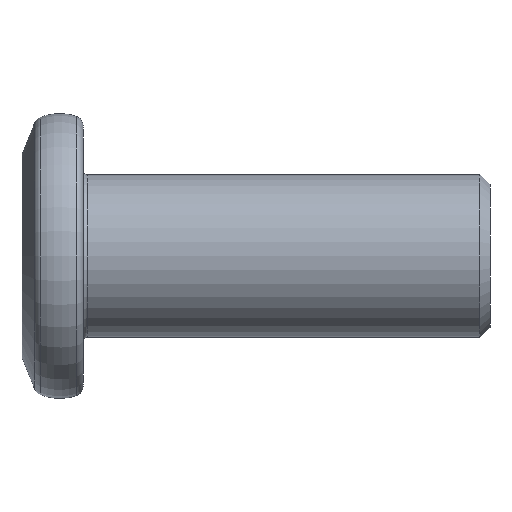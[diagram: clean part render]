
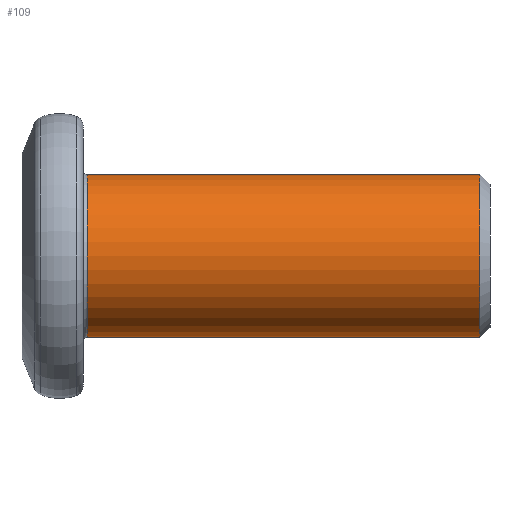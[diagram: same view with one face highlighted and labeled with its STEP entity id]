
A CAD part, front view. The second image highlights one B-rep face of the part: STEP entity #109.
In plain terms, the highlighted cylindrical face has radius 4 mm (diameter 8 mm), a partial arc.
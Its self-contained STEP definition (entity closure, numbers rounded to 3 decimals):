
#8 = CARTESIAN_POINT ( 'NONE',  ( 0., 0., 4. ) ) ;
#27 = CARTESIAN_POINT ( 'NONE',  ( 22.5, 0., 4. ) ) ;
#80 = CARTESIAN_POINT ( 'NONE',  ( 0., 0., -4. ) ) ;
#92 = CARTESIAN_POINT ( 'NONE',  ( 22.5, 0., 0. ) ) ;
#102 = AXIS2_PLACEMENT_3D ( 'NONE', #687, #376, #486 ) ;
#109 = ADVANCED_FACE ( 'NONE', ( #300 ), #440, .T. ) ;
#117 = ORIENTED_EDGE ( 'NONE', *, *, #416, .T. ) ;
#153 = CARTESIAN_POINT ( 'NONE',  ( 3.2, 0., -4. ) ) ;
#170 = AXIS2_PLACEMENT_3D ( 'NONE', #92, #476, #410 ) ;
#211 = AXIS2_PLACEMENT_3D ( 'NONE', #708, #327, #228 ) ;
#217 = LINE ( 'NONE', #80, #321 ) ;
#228 = DIRECTION ( 'NONE',  ( 0., 0., -1. ) ) ;
#288 = VERTEX_POINT ( 'NONE', #636 ) ;
#300 = FACE_OUTER_BOUND ( 'NONE', #417, .T. ) ;
#321 = VECTOR ( 'NONE', #590, 1000. ) ;
#327 = DIRECTION ( 'NONE',  ( 1., 0., 0. ) ) ;
#376 = DIRECTION ( 'NONE',  ( 1., 0., 0. ) ) ;
#395 = VECTOR ( 'NONE', #758, 1000. ) ;
#406 = VERTEX_POINT ( 'NONE', #27 ) ;
#410 = DIRECTION ( 'NONE',  ( 0., 0., -1. ) ) ;
#416 = EDGE_CURVE ( 'NONE', #538, #406, #587, .T. ) ;
#417 = EDGE_LOOP ( 'NONE', ( #688, #491, #703, #117 ) ) ;
#440 = CYLINDRICAL_SURFACE ( 'NONE', #102, 4. ) ;
#456 = VERTEX_POINT ( 'NONE', #153 ) ;
#476 = DIRECTION ( 'NONE',  ( -1., 0., 0. ) ) ;
#486 = DIRECTION ( 'NONE',  ( 0., 0., -1. ) ) ;
#491 = ORIENTED_EDGE ( 'NONE', *, *, #791, .T. ) ;
#495 = CARTESIAN_POINT ( 'NONE',  ( 22.5, 0., -4. ) ) ;
#538 = VERTEX_POINT ( 'NONE', #495 ) ;
#565 = LINE ( 'NONE', #8, #395 ) ;
#587 = CIRCLE ( 'NONE', #170, 4. ) ;
#590 = DIRECTION ( 'NONE',  ( 1., 0., 0. ) ) ;
#636 = CARTESIAN_POINT ( 'NONE',  ( 3.2, 0., 4. ) ) ;
#687 = CARTESIAN_POINT ( 'NONE',  ( 0., 0., 0. ) ) ;
#688 = ORIENTED_EDGE ( 'NONE', *, *, #713, .F. ) ;
#703 = ORIENTED_EDGE ( 'NONE', *, *, #827, .T. ) ;
#708 = CARTESIAN_POINT ( 'NONE',  ( 3.2, 0., 0. ) ) ;
#713 = EDGE_CURVE ( 'NONE', #288, #406, #565, .T. ) ;
#725 = CIRCLE ( 'NONE', #211, 4. ) ;
#758 = DIRECTION ( 'NONE',  ( 1., 0., 0. ) ) ;
#791 = EDGE_CURVE ( 'NONE', #288, #456, #725, .T. ) ;
#827 = EDGE_CURVE ( 'NONE', #456, #538, #217, .T. ) ;
